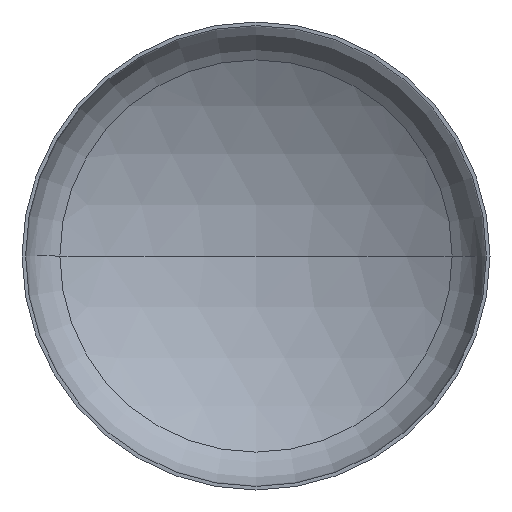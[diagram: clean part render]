
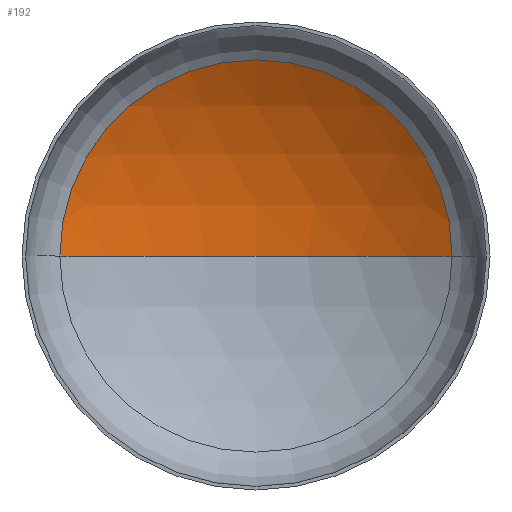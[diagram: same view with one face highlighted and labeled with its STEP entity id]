
A CAD part, front view. The second image highlights one B-rep face of the part: STEP entity #192.
In plain terms, the highlighted spherical face has radius 6400 mm.
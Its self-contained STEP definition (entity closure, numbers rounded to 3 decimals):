
#16 = AXIS2_PLACEMENT_3D ( 'NONE', #238, #18, #29 ) ;
#18 = DIRECTION ( 'NONE',  ( 0., 0., -1. ) ) ;
#29 = DIRECTION ( 'NONE',  ( -1., 0., 0. ) ) ;
#40 = AXIS2_PLACEMENT_3D ( 'NONE', #188, #189, #178 ) ;
#42 = AXIS2_PLACEMENT_3D ( 'NONE', #293, #207, #201 ) ;
#44 = AXIS2_PLACEMENT_3D ( 'NONE', #287, #160, #181 ) ;
#76 = VERTEX_POINT ( 'NONE', #210 ) ;
#77 = EDGE_CURVE ( 'NONE', #113, #76, #312, .T. ) ;
#78 = VERTEX_POINT ( 'NONE', #300 ) ;
#79 = EDGE_CURVE ( 'NONE', #78, #113, #185, .T. ) ;
#81 = EDGE_CURVE ( 'NONE', #78, #76, #252, .T. ) ;
#113 = VERTEX_POINT ( 'NONE', #271 ) ;
#138 = ORIENTED_EDGE ( 'NONE', *, *, #77, .T. ) ;
#140 = EDGE_LOOP ( 'NONE', ( #221, #164, #138 ) ) ;
#160 = DIRECTION ( 'NONE',  ( 0., -1., 0. ) ) ;
#163 = SPHERICAL_SURFACE ( 'NONE', #16, 6400. ) ;
#164 = ORIENTED_EDGE ( 'NONE', *, *, #79, .T. ) ;
#178 = DIRECTION ( 'NONE',  ( 1., 0., 0. ) ) ;
#181 = DIRECTION ( 'NONE',  ( 1., 0., 0. ) ) ;
#185 = CIRCLE ( 'NONE', #42, 6400. ) ;
#188 = CARTESIAN_POINT ( 'NONE',  ( 0., -4284.048, 0. ) ) ;
#189 = DIRECTION ( 'NONE',  ( 0., 0., 1. ) ) ;
#192 = ADVANCED_FACE ( 'NONE', ( #232 ), #163, .F. ) ;
#201 = DIRECTION ( 'NONE',  ( -1., 0., 0. ) ) ;
#207 = DIRECTION ( 'NONE',  ( 0., 0., -1. ) ) ;
#210 = CARTESIAN_POINT ( 'NONE',  ( -3352.263, 1167.771, 0. ) ) ;
#221 = ORIENTED_EDGE ( 'NONE', *, *, #81, .F. ) ;
#232 = FACE_OUTER_BOUND ( 'NONE', #140, .T. ) ;
#238 = CARTESIAN_POINT ( 'NONE',  ( 0., -4284.048, 0. ) ) ;
#252 = CIRCLE ( 'NONE', #40, 6400. ) ;
#271 = CARTESIAN_POINT ( 'NONE',  ( 3352.263, 1167.771, 0. ) ) ;
#287 = CARTESIAN_POINT ( 'NONE',  ( 0., 1167.771, 0. ) ) ;
#293 = CARTESIAN_POINT ( 'NONE',  ( 0., -4284.048, 0. ) ) ;
#300 = CARTESIAN_POINT ( 'NONE',  ( 0., 2115.952, 0. ) ) ;
#312 = CIRCLE ( 'NONE', #44, 3352.263 ) ;
